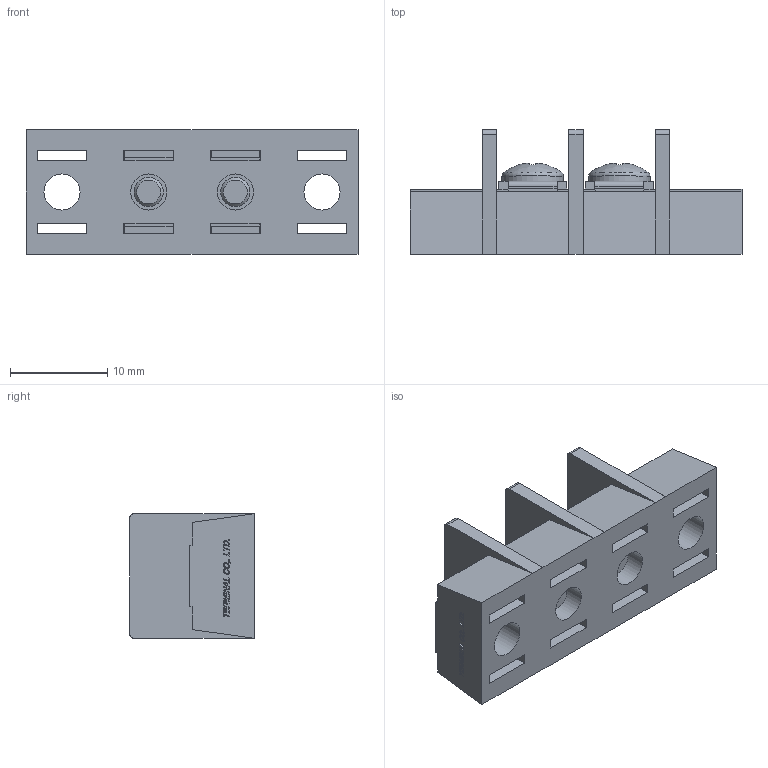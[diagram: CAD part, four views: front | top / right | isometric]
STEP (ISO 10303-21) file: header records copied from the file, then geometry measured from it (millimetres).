
FILE_DESCRIPTION(/* description */ ('Alibre Inc.'),/* implementation_level */ '2;1');
FILE_NAME(/* name */ 'export0',/* time_stamp */ '2015-10-20T20:33:31+09:00',/* author */ (''),/* organization */ (''),/* preprocessor_version */ 'ST-DEVELOPER v14',/* originating_system */ 'Alibre',/* authorisation */ '');
FILE_SCHEMA (('CONFIG_CONTROL_DESIGN'));
Length unit declared in the file: centimetre
Products named in the file (1): ID_1
Bounding box: 34.07 x 12.8 x 12.8 mm (x, y, z)
Volume: 2708.5 mm3; surface area: 3330.8 mm2
Topology: 1 solids, 35 shells, 966 faces, 2508 edges, 1662 vertices
Faces by surface type: plane 718, bspline 208, cylinder 24, cone 10, torus 4, sphere 2
Full cylindrical faces by diameter (mm): 3 x4, 3.7 x4, 4.6 x4, 6.3 x2
Entity records: 28403 total; most frequent: CARTESIAN_POINT 6987, ORIENTED_EDGE 4968, DIRECTION 2890, EDGE_CURVE 2484, VECTOR 1940, LINE 1940, VERTEX_POINT 1658, EDGE_LOOP 1076
